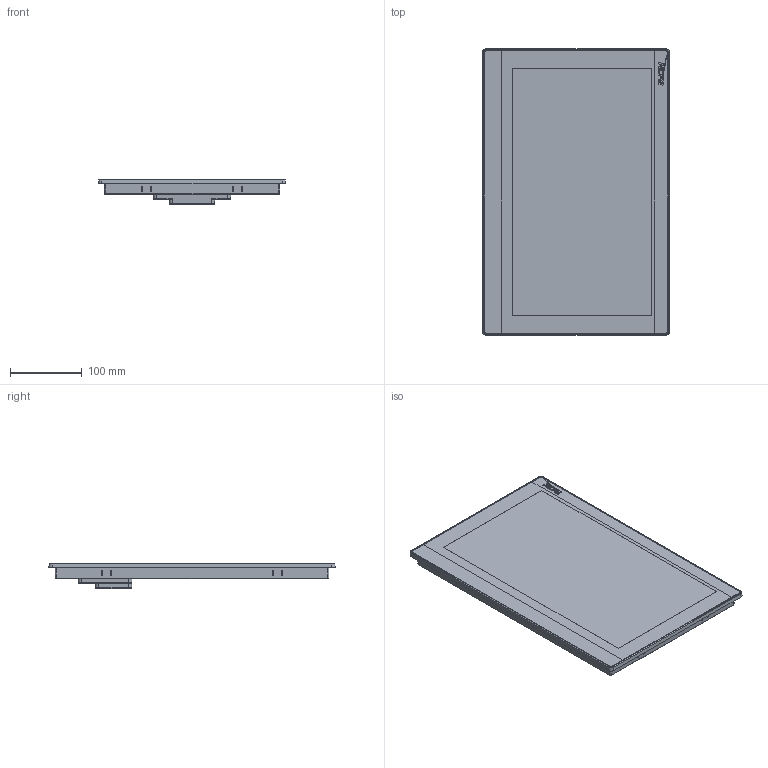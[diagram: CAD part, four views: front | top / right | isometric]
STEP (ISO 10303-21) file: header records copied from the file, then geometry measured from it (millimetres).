
FILE_DESCRIPTION( ('This file contains a STEP AP42 implementation' ,'as created by ZW3D STEP Interface translator.') ,'2;1' );
FILE_NAME( 'HC-15.stp' ,'241119.1633 9', (''), ('ZWCAD Software Co.'), 'Version 1.0', 'ZW3D to STEP translator', '' );
FILE_SCHEMA(('AUTOMOTIVE_DESIGN { 1 0 10303 214 1 1 1 1 }'));
Length unit declared in the file: millimetre
Products named in the file (2): 0; 15.6C-2
Bounding box: 260.11 x 398.11 x 36.01 mm (x, y, z)
Volume: 2834 mm3; surface area: 259538.4 mm2
Topology: 10 solids, 11 shells, 1128 faces, 3013 edges, 2045 vertices
Faces by surface type: plane 657, cylinder 258, bspline 177, torus 14, sphere 11, cone 11
Full cylindrical faces by diameter (mm): 1 x9, 2.1 x4, 2.5 x10, 2.8 x4, 3.2 x6, 3.3 x10, 5.5 x4, 7 x2
Entity records: 42867 total; most frequent: CARTESIAN_POINT 15236, ORIENTED_EDGE 5985, DIRECTION 4601, EDGE_CURVE 2994, VERTEX_POINT 2045, VECTOR 1897, LINE 1897, AXIS2_PLACEMENT_3D 1352
